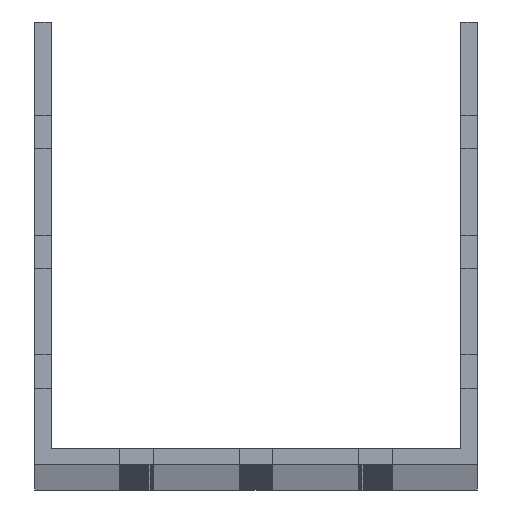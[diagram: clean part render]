
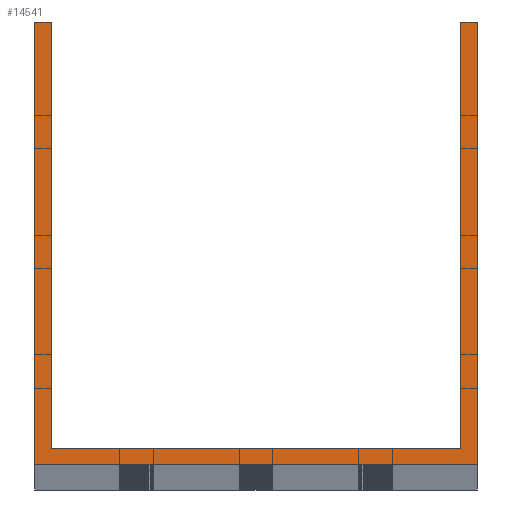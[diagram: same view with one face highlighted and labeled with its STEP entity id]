
A CAD part, top view. The second image highlights one B-rep face of the part: STEP entity #14541.
In plain terms, the highlighted planar face has unit normal (0, 0, 1).
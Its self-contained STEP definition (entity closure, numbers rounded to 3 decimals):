
#1810 = CARTESIAN_POINT ( 'NONE',  ( 42.75, 92.5, 1500. ) ) ;
#3205 = VECTOR ( 'NONE', #48831, 1000. ) ;
#4305 = CARTESIAN_POINT ( 'NONE',  ( -46.25, 92.5, 1500. ) ) ;
#7737 = CARTESIAN_POINT ( 'NONE',  ( -46.25, 92.5, 1500. ) ) ;
#7960 = VERTEX_POINT ( 'NONE', #59378 ) ;
#9440 = DIRECTION ( 'NONE',  ( 0., 1., 0. ) ) ;
#10193 = AXIS2_PLACEMENT_3D ( 'NONE', #49438, #44820, #63263 ) ;
#10487 = CARTESIAN_POINT ( 'NONE',  ( -46.25, 92.5, 1500. ) ) ;
#10669 = DIRECTION ( 'NONE',  ( 0., -1., 0. ) ) ;
#11115 = VECTOR ( 'NONE', #52130, 1000. ) ;
#12065 = EDGE_CURVE ( 'NONE', #77132, #7960, #26656, .T. ) ;
#13046 = CARTESIAN_POINT ( 'NONE',  ( -42.75, 92.5, 1500. ) ) ;
#14541 = ADVANCED_FACE ( 'NONE', ( #83826 ), #22195, .T. ) ;
#22195 = PLANE ( 'NONE',  #10193 ) ;
#24886 = CARTESIAN_POINT ( 'NONE',  ( -46.25, 3.5, 1500. ) ) ;
#26656 = LINE ( 'NONE', #73571, #67036 ) ;
#28045 = LINE ( 'NONE', #47269, #37963 ) ;
#28211 = CARTESIAN_POINT ( 'NONE',  ( -42.75, 3.5, 1500. ) ) ;
#28791 = CARTESIAN_POINT ( 'NONE',  ( 46.25, 92.5, 1500. ) ) ;
#29866 = VERTEX_POINT ( 'NONE', #74431 ) ;
#30173 = DIRECTION ( 'NONE',  ( -1., 0., 0. ) ) ;
#33350 = VERTEX_POINT ( 'NONE', #28211 ) ;
#35810 = CARTESIAN_POINT ( 'NONE',  ( 46.25, 92.5, 1500. ) ) ;
#36172 = EDGE_CURVE ( 'NONE', #87244, #74695, #28045, .T. ) ;
#37963 = VECTOR ( 'NONE', #55289, 1000. ) ;
#37995 = EDGE_CURVE ( 'NONE', #33350, #29866, #79367, .T. ) ;
#41834 = ORIENTED_EDGE ( 'NONE', *, *, #84954, .T. ) ;
#42869 = ORIENTED_EDGE ( 'NONE', *, *, #80226, .F. ) ;
#43936 = EDGE_CURVE ( 'NONE', #29866, #74695, #60936, .T. ) ;
#44820 = DIRECTION ( 'NONE',  ( 0., 0., 1. ) ) ;
#45077 = CARTESIAN_POINT ( 'NONE',  ( -42.75, 92.5, 1500. ) ) ;
#47269 = CARTESIAN_POINT ( 'NONE',  ( -46.25, 92.5, 1500. ) ) ;
#48831 = DIRECTION ( 'NONE',  ( 0., -1., 0. ) ) ;
#49438 = CARTESIAN_POINT ( 'NONE',  ( 0., 0., 1500. ) ) ;
#50484 = EDGE_CURVE ( 'NONE', #7960, #87244, #84041, .T. ) ;
#52130 = DIRECTION ( 'NONE',  ( 1., 0., 0. ) ) ;
#53793 = CARTESIAN_POINT ( 'NONE',  ( 42.75, 92.5, 1500. ) ) ;
#54352 = ORIENTED_EDGE ( 'NONE', *, *, #50484, .T. ) ;
#54669 = ORIENTED_EDGE ( 'NONE', *, *, #56924, .T. ) ;
#55289 = DIRECTION ( 'NONE',  ( -1., 0., 0. ) ) ;
#56924 = EDGE_CURVE ( 'NONE', #81483, #77132, #68933, .T. ) ;
#58556 = CARTESIAN_POINT ( 'NONE',  ( -46.25, 0., 1500. ) ) ;
#59378 = CARTESIAN_POINT ( 'NONE',  ( 46.25, 0., 1500. ) ) ;
#60432 = ORIENTED_EDGE ( 'NONE', *, *, #37995, .F. ) ;
#60936 = LINE ( 'NONE', #53793, #62996 ) ;
#61734 = ORIENTED_EDGE ( 'NONE', *, *, #43936, .F. ) ;
#62996 = VECTOR ( 'NONE', #75654, 1000. ) ;
#63263 = DIRECTION ( 'NONE',  ( 1., 0., 0. ) ) ;
#66418 = VECTOR ( 'NONE', #9440, 1000. ) ;
#67036 = VECTOR ( 'NONE', #67744, 1000. ) ;
#67744 = DIRECTION ( 'NONE',  ( 1., 0., 0. ) ) ;
#68933 = LINE ( 'NONE', #7737, #3205 ) ;
#70826 = VERTEX_POINT ( 'NONE', #13046 ) ;
#73571 = CARTESIAN_POINT ( 'NONE',  ( -46.25, 0., 1500. ) ) ;
#74431 = CARTESIAN_POINT ( 'NONE',  ( 42.75, 3.5, 1500. ) ) ;
#74695 = VERTEX_POINT ( 'NONE', #1810 ) ;
#75654 = DIRECTION ( 'NONE',  ( 0., 1., 0. ) ) ;
#75757 = LINE ( 'NONE', #10487, #84976 ) ;
#77132 = VERTEX_POINT ( 'NONE', #58556 ) ;
#77851 = EDGE_LOOP ( 'NONE', ( #42869, #41834, #54669, #79554, #54352, #87549, #61734, #60432 ) ) ;
#79367 = LINE ( 'NONE', #24886, #11115 ) ;
#79554 = ORIENTED_EDGE ( 'NONE', *, *, #12065, .T. ) ;
#80226 = EDGE_CURVE ( 'NONE', #70826, #33350, #85275, .T. ) ;
#81483 = VERTEX_POINT ( 'NONE', #4305 ) ;
#82759 = VECTOR ( 'NONE', #10669, 1000. ) ;
#83826 = FACE_OUTER_BOUND ( 'NONE', #77851, .T. ) ;
#84041 = LINE ( 'NONE', #35810, #66418 ) ;
#84954 = EDGE_CURVE ( 'NONE', #70826, #81483, #75757, .T. ) ;
#84976 = VECTOR ( 'NONE', #30173, 1000. ) ;
#85275 = LINE ( 'NONE', #45077, #82759 ) ;
#87244 = VERTEX_POINT ( 'NONE', #28791 ) ;
#87549 = ORIENTED_EDGE ( 'NONE', *, *, #36172, .T. ) ;
